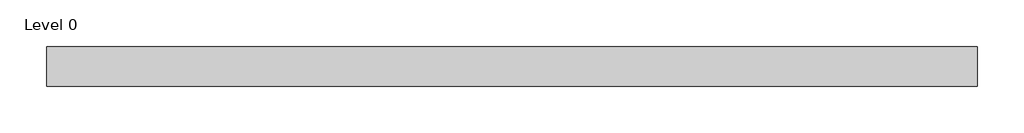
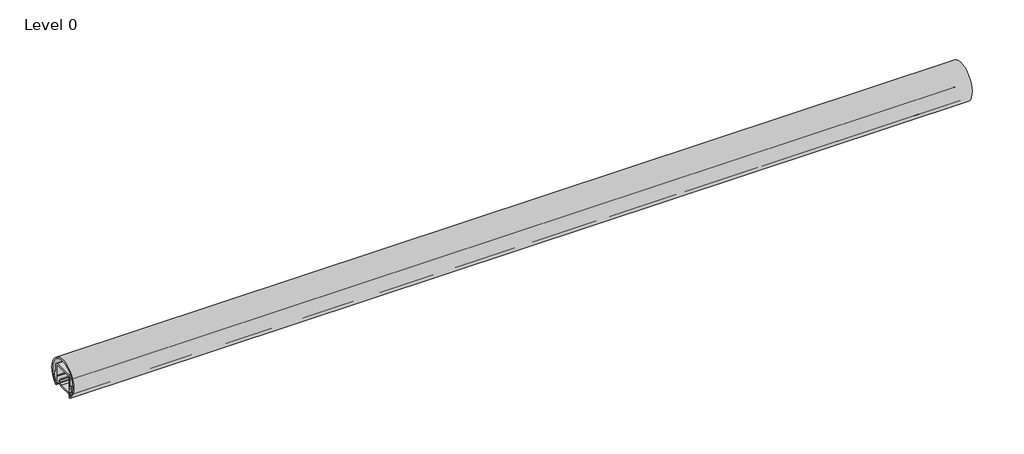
# One storey: 1 light fixture, 1 railing.
"""IFC4 building model written with IfcOpenShell, lengths in millimetres."""

from ifc_helpers import new_model, si_unit, point, frame, frame_2d, origin, place, context, project, spatial, polyline, circle_curve, trimmed, segment, composite_curve, outline, extrude, transform, mapped, element, save
from components import led_lighting_ultra_safe_39629687

model = new_model("IFC4")

# Units and contexts
model_context = context("Model", 3, world=origin())
ifc_project = project(units=[si_unit("LENGTHUNIT", "METRE", prefix="MILLI")], contexts=[model_context])

# Site, building, storey
site = spatial("IfcSite", under=ifc_project)
building = spatial("IfcBuilding", under=site)
storey = spatial("IfcBuildingStorey", under=building, Name="Level 0", Elevation=0.0)

# Light fixture
placement = place(None, origin())
led_lighting_ultra_safe_shape = led_lighting_ultra_safe_39629687(model_context)
element("IfcLightFixture", 1, ObjectType="LED Lighting ULTRA SAFE : IP69 -  Asymmetrical", at=placement, inside=storey, context=model_context, shape_type="MappedRepresentation", body=[
    mapped(led_lighting_ultra_safe_shape, transform((-13441.5989347, 1657.7012871, 894.4921875), x_axis=(-1.0, 0.0, 0.0), y_axis=(0.0, 1.0, 0.0), z_axis=(0.0, 0.0, -1.0))),
])

# Railing
element("IfcRailing", 2, ObjectType="LED Handrail ULTRA SAFE - ø42,4mm - Lilly - Asymmetrical", at=placement, inside=storey, context=model_context, shape_type="SweptSolid", body=[
    extrude(outline(composite_curve([segment(trimmed(circle_curve(frame_2d((1563.0755063, 871.5)), 1.504995), [point((1564.1594321, 870.4559143))], [point((1561.5705113, 871.5))], False, "CARTESIAN"), True, "CONTINUOUS"), segment(polyline([(1561.5705113, 871.5), (1563.0805013, 871.5)]), True, "CONTINUOUS"), segment(trimmed(circle_curve(frame_2d((1549.5305013, 885.7999126)), 19.7), [point((1563.0805013, 871.5))], [point((1535.9804679, 871.5000317))], True, "CARTESIAN"), True, "CONTINUOUS"), segment(polyline([(1535.9804679, 871.5000317), (1537.4809119, 871.5000317)]), True, "CONTINUOUS"), segment(trimmed(circle_curve(frame_2d((1535.9807026, 871.5000317)), 1.5002093), [point((1537.4809119, 871.5000317))], [point((1534.9488359, 870.4110509))], False, "CARTESIAN"), True, "CONTINUOUS"), segment(trimmed(circle_curve(frame_2d((1549.5305334, 885.7998492)), 21.200024), [point((1534.9488359, 870.4110509))], [point((1564.1594321, 870.4559143))], False, "CARTESIAN"), True, "CONTINUOUS")], self_intersect=False)), frame((-14694.9466292, 0.0, 0.0), z_axis=(1.0, 0.0, 0.0), x_axis=(0.0, 1.0, 0.0)), (0.0, 0.0, 1.0), 1000.0),
    extrude(outline(composite_curve([segment(polyline([(1535.9805013, 877.8), (1533.4805013, 877.8), (1533.4805013, 884.2), (1535.9805013, 884.2), (1535.9805013, 893.5)]), True, "CONTINUOUS"), segment(trimmed(circle_curve(frame_2d((1538.4805013, 893.5)), 2.5), [point((1535.9805013, 893.5))], [point((1538.4805013, 896.0))], False, "CARTESIAN"), True, "CONTINUOUS"), segment(polyline([(1538.4805013, 896.0), (1560.5805013, 896.0)]), True, "CONTINUOUS"), segment(trimmed(circle_curve(frame_2d((1560.5805013, 893.5)), 2.5), [point((1560.5805013, 896.0))], [point((1563.0805013, 893.5))], False, "CARTESIAN"), True, "CONTINUOUS"), segment(polyline([(1563.0805013, 893.5), (1563.0805013, 884.2), (1565.5805013, 884.2), (1565.5805013, 877.8), (1563.0805013, 877.8), (1563.0805013, 871.5000317), (1561.5800907, 871.5000317), (1561.5800907, 880.5)]), True, "CONTINUOUS"), segment(trimmed(circle_curve(frame_2d((1561.5800907, 881.0)), 0.5), [point((1561.5800907, 880.5))], [point((1561.5800907, 881.5))], True, "CARTESIAN"), True, "CONTINUOUS"), segment(polyline([(1561.5800907, 881.5), (1561.5800907, 893.4986959)]), True, "CONTINUOUS"), segment(trimmed(circle_curve(frame_2d((1560.5812339, 893.4986959)), 0.9988569), [point((1561.5800907, 893.4986959))], [point((1560.5812339, 894.4975528))], True, "CARTESIAN"), True, "CONTINUOUS"), segment(polyline([(1560.5812339, 894.4975528), (1538.4855165, 894.4975528)]), True, "CONTINUOUS"), segment(trimmed(circle_curve(frame_2d((1538.4855165, 893.5025277)), 0.9950251), [point((1538.4855165, 894.4975528))], [point((1537.4904914, 893.5025277))], True, "CARTESIAN"), True, "CONTINUOUS"), segment(polyline([(1537.4904914, 893.5025277), (1537.4904914, 881.5019521)]), True, "CONTINUOUS"), segment(trimmed(circle_curve(frame_2d((1537.4904914, 881.001278)), 0.5006741), [point((1537.4904914, 881.5019521))], [point((1537.4904914, 880.5006039))], True, "CARTESIAN"), True, "CONTINUOUS"), segment(polyline([(1537.4904914, 880.5006039), (1537.4904914, 871.5), (1535.9805013, 871.5), (1535.9805013, 877.8)]), True, "CONTINUOUS")], self_intersect=False)), frame((-14694.9466292, 0.0, 0.0), z_axis=(1.0, 0.0, 0.0), x_axis=(0.0, 1.0, 0.0)), (0.0, 0.0, 1.0), 1000.0),
])

save(model, "model.ifc")
